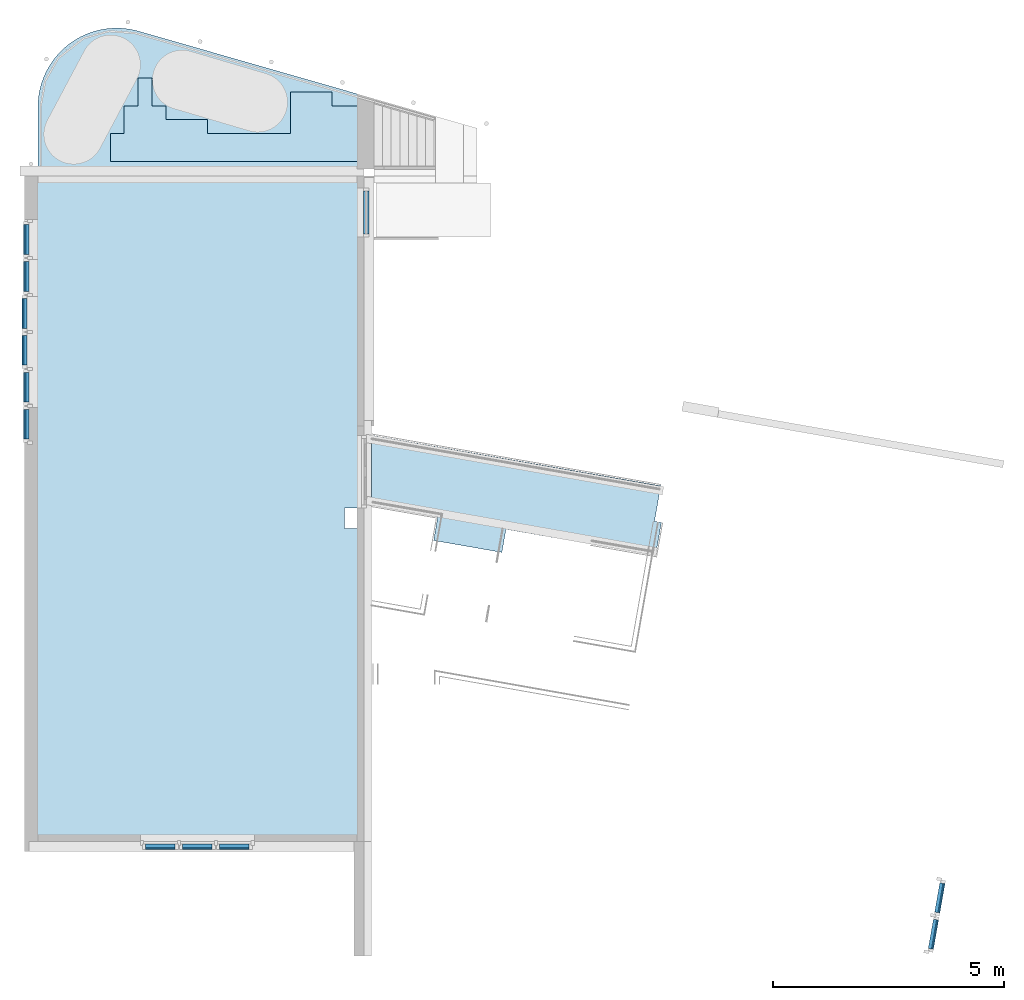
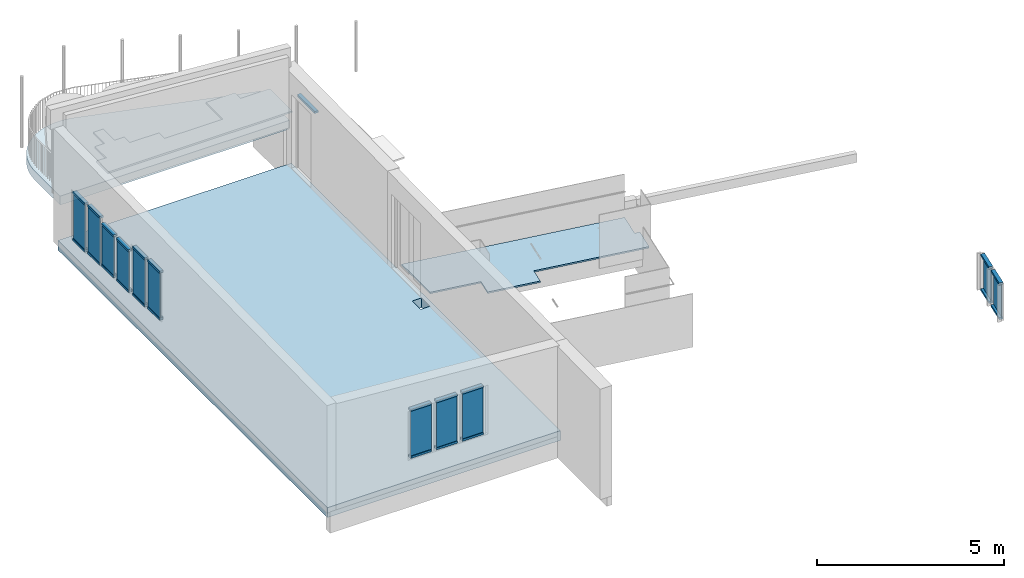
# One storey, part 3 of 9: 23 members, 11 plates, 4 slabs, 1 opening, 12 elements without a shape of their own.
"""IFC2X3 building model written with IfcOpenShell, lengths in millimetres."""

from ifc_helpers import new_model, entity, si_unit, converted_unit, derived_unit, direction, frame, frame_2d, origin, origin_2d_with_axis, place, context, subcontext, project, spatial, polyline, circle_curve, parameter, trimmed, segment, composite_curve, rectangle, outline, extrude, source, transform, mapped, material, layer, layer_set, layer_usage, type_object, type_shapes, element, aggregate, save


model = new_model("IFC2X3")

# Units and contexts
model_context = context("Model", 3, precision=0.01, world=origin(), true_north=direction((6.12303176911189e-17, 1.0)))
body_context = subcontext(model_context, "Body", "Model", "MODEL_VIEW")
ifc_project = project(units=[si_unit("LENGTHUNIT", "METRE", prefix="MILLI"), si_unit("AREAUNIT", "SQUARE_METRE"), si_unit("VOLUMEUNIT", "CUBIC_METRE"), converted_unit("PLANEANGLEUNIT", "DEGREE", entity("IfcRatioMeasure", 0.0174532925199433), si_unit("PLANEANGLEUNIT", "RADIAN"), dimensions=[0, 0, 0, 0, 0, 0, 0]), si_unit("MASSUNIT", "GRAM", prefix="KILO"), derived_unit("MASSDENSITYUNIT", [(si_unit("MASSUNIT", "GRAM", prefix="KILO"), 1), (si_unit("LENGTHUNIT", "METRE"), -3)]), si_unit("TIMEUNIT", "SECOND"), si_unit("FREQUENCYUNIT", "HERTZ"), si_unit("THERMODYNAMICTEMPERATUREUNIT", "DEGREE_CELSIUS"), derived_unit("THERMALTRANSMITTANCEUNIT", [(si_unit("MASSUNIT", "GRAM", prefix="KILO"), 1), (si_unit("THERMODYNAMICTEMPERATUREUNIT", "KELVIN"), -1), (si_unit("TIMEUNIT", "SECOND"), -3)]), derived_unit("VOLUMETRICFLOWRATEUNIT", [(si_unit("LENGTHUNIT", "METRE"), 3), (si_unit("TIMEUNIT", "SECOND"), -1)]), si_unit("ELECTRICCURRENTUNIT", "AMPERE"), si_unit("ELECTRICVOLTAGEUNIT", "VOLT"), si_unit("POWERUNIT", "WATT"), si_unit("FORCEUNIT", "NEWTON", prefix="KILO"), si_unit("ILLUMINANCEUNIT", "LUX"), si_unit("LUMINOUSFLUXUNIT", "LUMEN"), si_unit("LUMINOUSINTENSITYUNIT", "CANDELA"), derived_unit("USERDEFINED", [(si_unit("MASSUNIT", "GRAM", prefix="KILO"), -1), (si_unit("LENGTHUNIT", "METRE"), -2), (si_unit("TIMEUNIT", "SECOND"), 3), (si_unit("LUMINOUSFLUXUNIT", "LUMEN"), 1)]), derived_unit("LINEARVELOCITYUNIT", [(si_unit("LENGTHUNIT", "METRE"), 1), (si_unit("TIMEUNIT", "SECOND"), -1)]), si_unit("PRESSUREUNIT", "PASCAL"), derived_unit("USERDEFINED", [(si_unit("LENGTHUNIT", "METRE"), -2), (si_unit("MASSUNIT", "GRAM", prefix="KILO"), 1), (si_unit("TIMEUNIT", "SECOND"), -2)])], contexts=[model_context])

# Site, building, storey
site_placement = place(None, origin())
site = spatial("IfcSite", under=ifc_project, at=site_placement, Name="<Kadaster Gemeente>;<Kadaster nummer>;<Kadaster sectie>", CompositionType="ELEMENT")
building_placement = place(site_placement, origin())
building = spatial("IfcBuilding", under=site, at=building_placement, Name="JRCZ Middelburg", CompositionType="ELEMENT")
storey_placement = place(building_placement, frame((0.0, 0.0, 3700.0)))
storey = spatial("IfcBuildingStorey", under=building, at=storey_placement, Name="02 tweede verdieping", CompositionType="ELEMENT", Elevation=3700.0)

# Curtain wall, member
curtain_wall_type_1 = type_object("IfcCurtainWallType", Name="Curtain Wall:NLRS_31_CW_Ontwerpkozijn 067x114 2", PredefinedType="NOTDEFINED")
curtain_wall_1_placement = place(storey_placement, frame((0.0, 0.0, -3700.0)))
curtain_wall_1 = element("IfcCurtainWall", 1, at=curtain_wall_1_placement, inside=storey, type_object=curtain_wall_type_1, Name="Curtain Wall:NLRS_31_CW_Ontwerpkozijn 067x114 2", ObjectType="Curtain Wall:NLRS_31_CW_Ontwerpkozijn 067x114 2")
ifc_material_1 = material(Name="RBM_a_kozijn")
member_type_1 = type_object("IfcMemberType", Name="31_CWM_067x114", PredefinedType="MEMBER")
shared_shape_1 = source(origin(), body_context, "Body", "SweptSolid", [
    extrude(rectangle(XDim=113.999999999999, YDim=67.0, at=origin_2d_with_axis()), frame((-33.5, 57.0, -641.0), z_axis=(0.0, 0.0, 1.0), x_axis=(0.0, -1.0, 0.0)), (0.0, 0.0, 1.0), 640.999999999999),
])
type_shapes(member_type_1, [shared_shape_1])
member_1_placement = place(storey_placement, frame((29522.4129943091, 8317.20404928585, 1900.0), z_axis=(0.173648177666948, 0.984807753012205, 0.0), x_axis=(0.0, 0.0, 1.0)))
member_1 = element("IfcMember", 2, at=member_1_placement, type_object=member_type_1, material=ifc_material_1, Name="Rectangular Mullion:31_CWM_067x114", ObjectType="Rectangular Mullion:31_CWM_067x114", context=body_context, shape_type="MappedRepresentation", body=[
    mapped(shared_shape_1, transform((0.0, 0.0, 0.0), scale=1.0)),
])

curtain_wall_2_placement = place(storey_placement, frame((0.0, 0.0, -3700.0)))
curtain_wall_2 = element("IfcCurtainWall", 3, at=curtain_wall_2_placement, inside=storey, type_object=curtain_wall_type_1, Name="Curtain Wall:NLRS_31_CW_Ontwerpkozijn 067x114 2", ObjectType="Curtain Wall:NLRS_31_CW_Ontwerpkozijn 067x114 2")
member_2_placement = place(storey_placement, frame((29661.3315364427, 9105.05025169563, 1900.0), z_axis=(0.173648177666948, 0.984807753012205, 0.0), x_axis=(0.0, 0.0, 1.0)))
member_2 = element("IfcMember", 4, at=member_2_placement, type_object=member_type_1, material=ifc_material_1, Name="Rectangular Mullion:31_CWM_067x114", ObjectType="Rectangular Mullion:31_CWM_067x114", context=body_context, shape_type="MappedRepresentation", body=[
    mapped(shared_shape_1, transform((0.0, 0.0, 0.0), scale=1.0)),
])

curtain_wall_3_placement = place(storey_placement, frame((0.0, 0.0, -3700.0)))
curtain_wall_3 = element("IfcCurtainWall", 5, at=curtain_wall_3_placement, inside=storey, type_object=curtain_wall_type_1, Name="Curtain Wall:NLRS_31_CW_Ontwerpkozijn 067x114 2", ObjectType="Curtain Wall:NLRS_31_CW_Ontwerpkozijn 067x114 2")
member_3_placement = place(storey_placement, frame((9955.0, 21902.3639489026, 2300.0), z_axis=(0.0, -1.0, 0.0), x_axis=(0.0, 0.0, 1.0)))
member_3 = element("IfcMember", 6, at=member_3_placement, type_object=member_type_1, material=ifc_material_1, Name="Rectangular Mullion:31_CWM_067x114", ObjectType="Rectangular Mullion:31_CWM_067x114", context=body_context, shape_type="MappedRepresentation", body=[
    mapped(shared_shape_1, transform((0.0, 0.0, 0.0), scale=1.0)),
])

curtain_wall_4_placement = place(storey_placement, frame((0.0, 0.0, -3700.0)))
curtain_wall_4 = element("IfcCurtainWall", 7, at=curtain_wall_4_placement, inside=storey, type_object=curtain_wall_type_1, Name="Curtain Wall:NLRS_31_CW_Ontwerpkozijn 067x114 2", ObjectType="Curtain Wall:NLRS_31_CW_Ontwerpkozijn 067x114 2")
member_4_placement = place(storey_placement, frame((9915.0, 21102.3639489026, 2200.0), z_axis=(0.0, -1.0, 0.0), x_axis=(0.0, 0.0, 1.0)))
member_4 = element("IfcMember", 8, at=member_4_placement, type_object=member_type_1, material=ifc_material_1, Name="Rectangular Mullion:31_CWM_067x114", ObjectType="Rectangular Mullion:31_CWM_067x114", context=body_context, shape_type="MappedRepresentation", body=[
    mapped(shared_shape_1, transform((0.0, 0.0, 0.0), scale=1.0)),
])

curtain_wall_5_placement = place(storey_placement, frame((0.0, 0.0, -3700.0)))
curtain_wall_5 = element("IfcCurtainWall", 9, at=curtain_wall_5_placement, inside=storey, type_object=curtain_wall_type_1, Name="Curtain Wall:NLRS_31_CW_Ontwerpkozijn 067x114 2", ObjectType="Curtain Wall:NLRS_31_CW_Ontwerpkozijn 067x114 2")
member_5_placement = place(storey_placement, frame((9915.0, 20302.3639489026, 2200.0), z_axis=(0.0, -1.0, 0.0), x_axis=(0.0, 0.0, 1.0)))
member_5 = element("IfcMember", 10, at=member_5_placement, type_object=member_type_1, material=ifc_material_1, Name="Rectangular Mullion:31_CWM_067x114", ObjectType="Rectangular Mullion:31_CWM_067x114", context=body_context, shape_type="MappedRepresentation", body=[
    mapped(shared_shape_1, transform((0.0, 0.0, 0.0), scale=1.0)),
])

curtain_wall_6_placement = place(storey_placement, frame((0.0, 0.0, -3700.0)))
curtain_wall_6 = element("IfcCurtainWall", 11, at=curtain_wall_6_placement, inside=storey, type_object=curtain_wall_type_1, Name="Curtain Wall:NLRS_31_CW_Ontwerpkozijn 067x114 2", ObjectType="Curtain Wall:NLRS_31_CW_Ontwerpkozijn 067x114 2")
member_6_placement = place(storey_placement, frame((9955.0, 19502.3639489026, 2400.0), z_axis=(0.0, -1.0, 0.0), x_axis=(0.0, 0.0, 1.0)))
member_6 = element("IfcMember", 12, at=member_6_placement, type_object=member_type_1, material=ifc_material_1, Name="Rectangular Mullion:31_CWM_067x114", ObjectType="Rectangular Mullion:31_CWM_067x114", context=body_context, shape_type="MappedRepresentation", body=[
    mapped(shared_shape_1, transform((0.0, 0.0, 0.0), scale=1.0)),
])

curtain_wall_7_placement = place(storey_placement, frame((0.0, 0.0, -3700.0)))
curtain_wall_7 = element("IfcCurtainWall", 13, at=curtain_wall_7_placement, inside=storey, type_object=curtain_wall_type_1, Name="Curtain Wall:NLRS_31_CW_Ontwerpkozijn 067x114 2", ObjectType="Curtain Wall:NLRS_31_CW_Ontwerpkozijn 067x114 2")
member_7_placement = place(storey_placement, frame((9955.0, 18702.3639489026, 2450.0), z_axis=(0.0, -1.0, 0.0), x_axis=(0.0, 0.0, 1.0)))
member_7 = element("IfcMember", 14, at=member_7_placement, type_object=member_type_1, material=ifc_material_1, Name="Rectangular Mullion:31_CWM_067x114", ObjectType="Rectangular Mullion:31_CWM_067x114", context=body_context, shape_type="MappedRepresentation", body=[
    mapped(shared_shape_1, transform((0.0, 0.0, 0.0), scale=1.0)),
])

curtain_wall_8_placement = place(storey_placement, frame((0.0, 0.0, -3700.0)))
curtain_wall_8 = element("IfcCurtainWall", 15, at=curtain_wall_8_placement, inside=storey, type_object=curtain_wall_type_1, Name="Curtain Wall:NLRS_31_CW_Ontwerpkozijn 067x114 2", ObjectType="Curtain Wall:NLRS_31_CW_Ontwerpkozijn 067x114 2")
member_8_placement = place(storey_placement, frame((9955.0, 22702.3639489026, 2250.0), z_axis=(0.0, -1.0, 0.0), x_axis=(0.0, 0.0, 1.0)))
member_8 = element("IfcMember", 16, at=member_8_placement, type_object=member_type_1, material=ifc_material_1, Name="Rectangular Mullion:31_CWM_067x114", ObjectType="Rectangular Mullion:31_CWM_067x114", context=body_context, shape_type="MappedRepresentation", body=[
    mapped(shared_shape_1, transform((0.0, 0.0, 0.0), scale=1.0)),
])

curtain_wall_9_placement = place(storey_placement, frame((0.0, 0.0, -3700.0)))
curtain_wall_9 = element("IfcCurtainWall", 17, at=curtain_wall_9_placement, inside=storey, type_object=curtain_wall_type_1, Name="Curtain Wall:NLRS_31_CW_Ontwerpkozijn 067x114 2", ObjectType="Curtain Wall:NLRS_31_CW_Ontwerpkozijn 067x114 2")
member_9_placement = place(storey_placement, frame((14720.5000000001, 9942.0, 2400.0), z_axis=(1.0, 0.0, 0.0), x_axis=(0.0, 0.0, 1.0)))
member_9 = element("IfcMember", 18, at=member_9_placement, type_object=member_type_1, material=ifc_material_1, Name="Rectangular Mullion:31_CWM_067x114", ObjectType="Rectangular Mullion:31_CWM_067x114", context=body_context, shape_type="MappedRepresentation", body=[
    mapped(shared_shape_1, transform((0.0, 0.0, 0.0), scale=1.0)),
])

curtain_wall_10_placement = place(storey_placement, frame((0.0, 0.0, -3700.0)))
curtain_wall_10 = element("IfcCurtainWall", 19, at=curtain_wall_10_placement, inside=storey, type_object=curtain_wall_type_1, Name="Curtain Wall:NLRS_31_CW_Ontwerpkozijn 067x114 2", ObjectType="Curtain Wall:NLRS_31_CW_Ontwerpkozijn 067x114 2")
member_10_placement = place(storey_placement, frame((13920.5000000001, 9942.0, 2400.0), z_axis=(1.0, 0.0, 0.0), x_axis=(0.0, 0.0, 1.0)))
member_10 = element("IfcMember", 20, at=member_10_placement, type_object=member_type_1, material=ifc_material_1, Name="Rectangular Mullion:31_CWM_067x114", ObjectType="Rectangular Mullion:31_CWM_067x114", context=body_context, shape_type="MappedRepresentation", body=[
    mapped(shared_shape_1, transform((0.0, 0.0, 0.0), scale=1.0)),
])

curtain_wall_11_placement = place(storey_placement, frame((0.0, 0.0, -3700.0)))
curtain_wall_11 = element("IfcCurtainWall", 21, at=curtain_wall_11_placement, inside=storey, type_object=curtain_wall_type_1, Name="Curtain Wall:NLRS_31_CW_Ontwerpkozijn 067x114 2", ObjectType="Curtain Wall:NLRS_31_CW_Ontwerpkozijn 067x114 2")
member_11_placement = place(storey_placement, frame((13120.5000000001, 9942.0, 2400.0), z_axis=(1.0, 0.0, 0.0), x_axis=(0.0, 0.0, 1.0)))
member_11 = element("IfcMember", 22, at=member_11_placement, type_object=member_type_1, material=ifc_material_1, Name="Rectangular Mullion:31_CWM_067x114", ObjectType="Rectangular Mullion:31_CWM_067x114", context=body_context, shape_type="MappedRepresentation", body=[
    mapped(shared_shape_1, transform((0.0, 0.0, 0.0), scale=1.0)),
])

# Member
member_type_2 = type_object("IfcMemberType", Name="31_CWM_067x114", PredefinedType="MEMBER")
shared_shape_2 = source(origin(), body_context, "Body", "SweptSolid", [
    extrude(rectangle(XDim=113.999999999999, YDim=67.0, at=origin_2d_with_axis()), frame((-33.5, 57.0, -641.0), z_axis=(0.0, 0.0, 1.0), x_axis=(0.0, -1.0, 0.0)), (0.0, 0.0, 1.0), 640.999999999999),
])
type_shapes(member_type_2, [shared_shape_2])
member_12_placement = place(storey_placement, frame((29411.1045124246, 7685.94227960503, 700.0), z_axis=(-0.173648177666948, -0.984807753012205, 0.0), x_axis=(0.0, 0.0, -1.0)))
member_12 = element("IfcMember", 23, at=member_12_placement, type_object=member_type_2, material=ifc_material_1, Name="Rectangular Mullion:31_CWM_067x114", ObjectType="Rectangular Mullion:31_CWM_067x114", context=body_context, shape_type="MappedRepresentation", body=[
    mapped(shared_shape_2, transform((0.0, 0.0, 0.0), scale=1.0)),
])

member_13_placement = place(storey_placement, frame((29550.0230545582, 8473.78848201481, 700.0), z_axis=(-0.173648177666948, -0.984807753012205, 0.0), x_axis=(0.0, 0.0, -1.0)))
member_13 = element("IfcMember", 24, at=member_13_placement, type_object=member_type_2, material=ifc_material_1, Name="Rectangular Mullion:31_CWM_067x114", ObjectType="Rectangular Mullion:31_CWM_067x114", context=body_context, shape_type="MappedRepresentation", body=[
    mapped(shared_shape_2, transform((0.0, 0.0, 0.0), scale=1.0)),
])

member_14_placement = place(storey_placement, frame((9955.0, 22543.3639489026, 700.0), z_axis=(0.0, 1.0, 0.0), x_axis=(0.0, 0.0, -1.0)))
member_14 = element("IfcMember", 25, at=member_14_placement, type_object=member_type_2, material=ifc_material_1, Name="Rectangular Mullion:31_CWM_067x114", ObjectType="Rectangular Mullion:31_CWM_067x114", context=body_context, shape_type="MappedRepresentation", body=[
    mapped(shared_shape_2, transform((0.0, 0.0, 0.0), scale=1.0)),
])

member_15_placement = place(storey_placement, frame((9915.0, 21743.3639489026, 800.0), z_axis=(0.0, 1.0, 0.0), x_axis=(0.0, 0.0, -1.0)))
member_15 = element("IfcMember", 26, at=member_15_placement, type_object=member_type_2, material=ifc_material_1, Name="Rectangular Mullion:31_CWM_067x114", ObjectType="Rectangular Mullion:31_CWM_067x114", context=body_context, shape_type="MappedRepresentation", body=[
    mapped(shared_shape_2, transform((0.0, 0.0, 0.0), scale=1.0)),
])

member_16_placement = place(storey_placement, frame((9915.0, 20943.3639489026, 800.0), z_axis=(0.0, 1.0, 0.0), x_axis=(0.0, 0.0, -1.0)))
member_16 = element("IfcMember", 27, at=member_16_placement, type_object=member_type_2, material=ifc_material_1, Name="Rectangular Mullion:31_CWM_067x114", ObjectType="Rectangular Mullion:31_CWM_067x114", context=body_context, shape_type="MappedRepresentation", body=[
    mapped(shared_shape_2, transform((0.0, 0.0, 0.0), scale=1.0)),
])

member_17_placement = place(storey_placement, frame((9955.0, 20143.3639489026, 800.0), z_axis=(0.0, 1.0, 0.0), x_axis=(0.0, 0.0, -1.0)))
member_17 = element("IfcMember", 28, at=member_17_placement, type_object=member_type_2, material=ifc_material_1, Name="Rectangular Mullion:31_CWM_067x114", ObjectType="Rectangular Mullion:31_CWM_067x114", context=body_context, shape_type="MappedRepresentation", body=[
    mapped(shared_shape_2, transform((0.0, 0.0, 0.0), scale=1.0)),
])

member_18_placement = place(storey_placement, frame((9955.0, 19343.3639489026, 850.0), z_axis=(0.0, 1.0, 0.0), x_axis=(0.0, 0.0, -1.0)))
member_18 = element("IfcMember", 29, at=member_18_placement, type_object=member_type_2, material=ifc_material_1, Name="Rectangular Mullion:31_CWM_067x114", ObjectType="Rectangular Mullion:31_CWM_067x114", context=body_context, shape_type="MappedRepresentation", body=[
    mapped(shared_shape_2, transform((0.0, 0.0, 0.0), scale=1.0)),
])

member_19_placement = place(storey_placement, frame((9955.0, 23343.3639489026, 650.0), z_axis=(0.0, 1.0, 0.0), x_axis=(0.0, 0.0, -1.0)))
member_19 = element("IfcMember", 30, at=member_19_placement, type_object=member_type_2, material=ifc_material_1, Name="Rectangular Mullion:31_CWM_067x114", ObjectType="Rectangular Mullion:31_CWM_067x114", context=body_context, shape_type="MappedRepresentation", body=[
    mapped(shared_shape_2, transform((0.0, 0.0, 0.0), scale=1.0)),
])

member_20_placement = place(storey_placement, frame((14079.5000000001, 9942.0, 800.0), z_axis=(-1.0, 0.0, 0.0), x_axis=(0.0, 0.0, -1.0)))
member_20 = element("IfcMember", 31, at=member_20_placement, type_object=member_type_2, material=ifc_material_1, Name="Rectangular Mullion:31_CWM_067x114", ObjectType="Rectangular Mullion:31_CWM_067x114", context=body_context, shape_type="MappedRepresentation", body=[
    mapped(shared_shape_2, transform((0.0, 0.0, 0.0), scale=1.0)),
])

member_21_placement = place(storey_placement, frame((13279.5000000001, 9942.0, 800.0), z_axis=(-1.0, 0.0, 0.0), x_axis=(0.0, 0.0, -1.0)))
member_21 = element("IfcMember", 32, at=member_21_placement, type_object=member_type_2, material=ifc_material_1, Name="Rectangular Mullion:31_CWM_067x114", ObjectType="Rectangular Mullion:31_CWM_067x114", context=body_context, shape_type="MappedRepresentation", body=[
    mapped(shared_shape_2, transform((0.0, 0.0, 0.0), scale=1.0)),
])

member_22_placement = place(storey_placement, frame((12479.5000000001, 9942.0, 800.0), z_axis=(-1.0, 0.0, 0.0), x_axis=(0.0, 0.0, -1.0)))
member_22 = element("IfcMember", 33, at=member_22_placement, type_object=member_type_2, material=ifc_material_1, Name="Rectangular Mullion:31_CWM_067x114", ObjectType="Rectangular Mullion:31_CWM_067x114", context=body_context, shape_type="MappedRepresentation", body=[
    mapped(shared_shape_2, transform((0.0, 0.0, 0.0), scale=1.0)),
])

# Curtain wall, member
curtain_wall_type_2 = type_object("IfcCurtainWallType", Name="Curtain Wall:NLRS_31_CW_Ontwerpkozijn 067x114", PredefinedType="NOTDEFINED")
curtain_wall_12_placement = place(storey_placement, frame((0.0, 0.0, -3700.0)))
curtain_wall_12 = element("IfcCurtainWall", 34, at=curtain_wall_12_placement, inside=storey, type_object=curtain_wall_type_2, Name="Curtain Wall:NLRS_31_CW_Ontwerpkozijn 067x114", ObjectType="Curtain Wall:NLRS_31_CW_Ontwerpkozijn 067x114")
member_type_3 = type_object("IfcMemberType", Name="31_CWM_067x114", PredefinedType="MEMBER")
shared_shape_3 = source(origin(), body_context, "Body", "SweptSolid", [
    extrude(rectangle(XDim=113.999999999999, YDim=67.0, at=origin_2d_with_axis()), frame((-33.5, -57.0, -930.0), z_axis=(0.0, 0.0, 1.0), x_axis=(0.0, -1.0, 0.0)), (0.0, 0.0, 1.0), 930.000000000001),
])
type_shapes(member_type_3, [shared_shape_3])
member_23_placement = place(storey_placement, frame((17197.0, 23141.0, 2400.0), z_axis=(0.0, -1.0, 0.0), x_axis=(0.0, 0.0, 1.0)))
member_23 = element("IfcMember", 35, at=member_23_placement, type_object=member_type_3, material=ifc_material_1, Name="Rectangular Mullion:31_CWM_067x114", ObjectType="Rectangular Mullion:31_CWM_067x114", context=body_context, shape_type="MappedRepresentation", body=[
    mapped(shared_shape_3, transform((0.0, 0.0, 0.0), scale=1.0)),
])
aggregate(curtain_wall_12, [member_23])

# Slab, opening
ifc_material_2 = material(Name="RBM_i4_multiplex_beplating")
ifc_layer_1 = layer(ifc_material_2, 320.0)
ifc_layer_set_1 = layer_set([ifc_layer_1], Name="Floor:RBM_23_FL_houten kanaalplaat-320mm")
ifc_layer_usage_1 = layer_usage(ifc_layer_set_1, "AXIS3", "POSITIVE", 0.0)
slab_type_1 = type_object("IfcSlabType", Name="Floor:RBM_23_FL_houten kanaalplaat-320mm", PredefinedType="FLOOR", material=ifc_layer_set_1)
slab_1_placement = place(storey_placement, frame((10000.0, 10000.0, -365.0)))
slab_1 = element("IfcSlab", 36, at=slab_1_placement, inside=storey, type_object=slab_type_1, material=ifc_layer_usage_1, Name="Floor:RBM_23_FL_houten kanaalplaat-320mm", ObjectType="Floor:RBM_23_FL_houten kanaalplaat-320mm", PredefinedType="FLOOR", context=body_context, shape_type="SweptSolid", body=[
    extrude(rectangle(XDim=14400.0, YDim=7200.0, at=frame_2d((0.0, 0.0), x_axis=(0.0, 1.0))), frame((3600.0, 7200.0, 320.0), z_axis=(0.0, 0.0, -1.0), x_axis=(-1.0, 0.0, 0.0)), (0.0, 0.0, 1.0), 320.0),
])
opening_placement = place(storey_placement, frame((10000.0, 10000.0, -365.0)))
element("IfcOpeningElement", 37, at=opening_placement, cuts=slab_1, ObjectType="Opening", context=body_context, shape_type="SweptSolid", body=[
    extrude(rectangle(XDim=449.999999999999, YDim=300.000000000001, at=frame_2d((-3332.0, -209.910615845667), x_axis=(0.0, -1.0))), frame((3600.0, 7200.0, 320.0), z_axis=(0.0, 0.0, -1.0), x_axis=(-1.0, 0.0, 0.0)), (0.0, 0.0, 1.0), 320.0),
])

# Slabs
ifc_material_3 = material(Name="traphout")
ifc_layer_2 = layer(ifc_material_3, 50.0)
ifc_layer_set_2 = layer_set([ifc_layer_2], Name="Floor:RBM_23_FL_houten vloer-brug")
ifc_layer_usage_2 = layer_usage(ifc_layer_set_2, "AXIS3", "POSITIVE", 0.0)
slab_type_2 = type_object("IfcSlabType", Name="Floor:RBM_23_FL_houten vloer-brug", PredefinedType="FLOOR", material=ifc_layer_set_2)
slab_2_placement = place(storey_placement, origin())
element("IfcSlab", 38, at=slab_2_placement, inside=storey, type_object=slab_type_2, material=ifc_layer_usage_2, Name="Floor:RBM_23_FL_houten vloer-brug", ObjectType="Floor:RBM_23_FL_houten vloer-brug", PredefinedType="FLOOR", context=body_context, shape_type="SweptSolid", body=[
    extrude(outline(polyline([(239.600856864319, -3328.730916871), (1759.40523363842, -3328.730916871), (665.927151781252, 2926.67564340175), (-104.899081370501, 2791.93114953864), (-131.141619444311, 2940.75997861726), (-843.82883170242, 2815.09399429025), (-277.933241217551, -422.19722158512), (-777.476281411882, -509.519981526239), (-519.186748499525, -1987.10427465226), (-10.4674386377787, -1898.17745434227), (239.600856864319, -3328.730916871)])), frame((20697.2309168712, 17030.0400636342, 0.0), z_axis=(0.0, 0.0, -1.0), x_axis=(0.0, 1.0, 0.0)), (0.0, 0.0, 1.0), 50.0),
])
ifc_material_4 = material(Name="ISR_Multiplex")
ifc_layer_3 = layer(ifc_material_4, 18.0)
ifc_material_5 = material(Name="RBM_i2_hout_vuren_gen")
ifc_layer_4 = layer(ifc_material_5, 271.0)
ifc_layer_set_3 = layer_set([ifc_layer_3, ifc_layer_4], Name="Floor:RBM_23_FL_balklaag dak_71x271, h.o.h. 400")
ifc_layer_usage_3 = layer_usage(ifc_layer_set_3, "AXIS3", "POSITIVE", 0.0)
slab_type_3 = type_object("IfcSlabType", Name="Floor:RBM_23_FL_balklaag dak_71x271, h.o.h. 400", PredefinedType="FLOOR", material=ifc_layer_set_3)
slab_3_placement = place(storey_placement, origin())
element("IfcSlab", 39, at=slab_3_placement, inside=storey, type_object=slab_type_3, material=ifc_layer_usage_3, Name="Floor:RBM_23_FL_balklaag dak_71x271, h.o.h. 400", ObjectType="Floor:RBM_23_FL_balklaag dak_71x271, h.o.h. 400", PredefinedType="FLOOR", context=body_context, shape_type="SweptSolid", body=[
    extrude(outline(composite_curve([segment(polyline([(-1178.00466543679, -3271.43378327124), (165.145638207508, -3271.43378327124)]), True, "CONTINUOUS"), segment(trimmed(circle_curve(frame_2d((165.145638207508, -1568.35104218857), x_axis=(0.0, -1.0)), 1703.08274108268), [parameter(0.0)], [parameter(106.653579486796)], True, "PARAMETER"), True, "CONTINUOUS"), segment(polyline([(1796.7925691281, -1080.27408535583), (394.071123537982, 3811.57082594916)]), True, "CONTINUOUS"), segment(polyline([(394.071123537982, 3811.57082594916), (-1178.00466543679, 3811.57082594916)]), True, "CONTINUOUS"), segment(polyline([(-1178.00466543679, 3811.57082594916), (-1178.00466543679, -3271.43378327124)]), True, "CONTINUOUS")], self_intersect=False)), frame((13421.429174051, 25728.0046654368, 1250.0), z_axis=(0.0, 0.0, -1.0), x_axis=(0.0, 1.0, 0.0)), (0.0, 0.0, 1.0), 289.0),
])

# Plate
ifc_material_6 = material(Name="<Unnamed>")
ifc_layer_5 = layer(ifc_material_6, 24.0)
ifc_layer_set_4 = layer_set([ifc_layer_5], Name="System Panel:31_CWP_glas_2")
ifc_layer_usage_4 = layer_usage(ifc_layer_set_4, "AXIS3", "POSITIVE", 0.278871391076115)
plate_type_1 = type_object("IfcPlateType", Name="31_CWP_glas_2", PredefinedType="CURTAIN_PANEL", material=ifc_layer_set_4)
shared_shape_4 = source(origin(), body_context, "Body", "SweptSolid", [
    extrude(rectangle(XDim=24.0, YDim=640.999999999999, at=frame_2d((-7.99360577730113e-15, 0.0), x_axis=(1.0, 0.0))), frame((0.0, -85.0, 0.0), z_axis=(0.0, 0.0, 1.0), x_axis=(0.0, 1.0, 0.0)), (0.0, 0.0, 1.0), 1266.0),
])
type_shapes(plate_type_1, [shared_shape_4])
plate_1_placement = place(curtain_wall_4_placement, frame((9915.0, 21422.8639489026, 4567.0), z_axis=(0.0, 0.0, 1.0), x_axis=(0.0, -1.0, 0.0)))
plate_1 = element("IfcPlate", 40, at=plate_1_placement, type_object=plate_type_1, material=ifc_layer_usage_4, Name="System Panel:31_CWP_glas_2", ObjectType="System Panel:31_CWP_glas_2", context=body_context, shape_type="MappedRepresentation", body=[
    mapped(shared_shape_4, transform((0.0, 0.0, 0.0), scale=1.0)),
])

aggregate(curtain_wall_4, [plate_1, member_4, member_15])

ifc_layer_usage_5 = layer_usage(ifc_layer_set_4, "AXIS3", "POSITIVE", 0.278871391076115)
plate_2_placement = place(curtain_wall_5_placement, frame((9915.0, 20622.8639489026, 4567.0), z_axis=(0.0, 0.0, 1.0), x_axis=(0.0, -1.0, 0.0)))
plate_2 = element("IfcPlate", 41, at=plate_2_placement, type_object=plate_type_1, material=ifc_layer_usage_5, Name="System Panel:31_CWP_glas_2", ObjectType="System Panel:31_CWP_glas_2", context=body_context, shape_type="MappedRepresentation", body=[
    mapped(shared_shape_4, transform((0.0, 0.0, 0.0), scale=1.0)),
])

aggregate(curtain_wall_5, [plate_2, member_5, member_16])

ifc_layer_usage_6 = layer_usage(ifc_layer_set_4, "AXIS3", "POSITIVE", 0.278871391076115)
plate_type_2 = type_object("IfcPlateType", Name="31_CWP_glas_2", PredefinedType="CURTAIN_PANEL", material=ifc_layer_set_4)
shared_shape_5 = source(origin(), body_context, "Body", "SweptSolid", [
    extrude(rectangle(XDim=24.0, YDim=640.999999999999, at=frame_2d((-7.99360577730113e-15, 0.0), x_axis=(1.0, 0.0))), frame((0.0, -85.0, 0.0), z_axis=(0.0, 0.0, 1.0), x_axis=(0.0, 1.0, 0.0)), (0.0, 0.0, 1.0), 1066.0),
])
type_shapes(plate_type_2, [shared_shape_5])
plate_3_placement = place(curtain_wall_1_placement, frame((29466.7587533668, 8001.57316444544, 4467.0), z_axis=(0.0, 0.0, 1.0), x_axis=(0.17364817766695, 0.984807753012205, 0.0)))
plate_3 = element("IfcPlate", 42, at=plate_3_placement, type_object=plate_type_2, material=ifc_layer_usage_6, Name="System Panel:31_CWP_glas_2", ObjectType="System Panel:31_CWP_glas_2", context=body_context, shape_type="MappedRepresentation", body=[
    mapped(shared_shape_5, transform((0.0, 0.0, 0.0), scale=1.0)),
])

aggregate(curtain_wall_1, [plate_3, member_1, member_12])

ifc_layer_usage_7 = layer_usage(ifc_layer_set_4, "AXIS3", "POSITIVE", 0.278871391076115)
plate_4_placement = place(curtain_wall_2_placement, frame((29605.6772955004, 8789.41936685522, 4467.0), z_axis=(0.0, 0.0, 1.0), x_axis=(0.17364817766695, 0.984807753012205, 0.0)))
plate_4 = element("IfcPlate", 43, at=plate_4_placement, type_object=plate_type_2, material=ifc_layer_usage_7, Name="System Panel:31_CWP_glas_2", ObjectType="System Panel:31_CWP_glas_2", context=body_context, shape_type="MappedRepresentation", body=[
    mapped(shared_shape_5, transform((0.0, 0.0, 0.0), scale=1.0)),
])

aggregate(curtain_wall_2, [plate_4, member_2, member_13])

ifc_layer_usage_8 = layer_usage(ifc_layer_set_4, "AXIS3", "POSITIVE", 0.278871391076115)
plate_type_3 = type_object("IfcPlateType", Name="31_CWP_glas_2", PredefinedType="CURTAIN_PANEL", material=ifc_layer_set_4)
shared_shape_6 = source(origin(), body_context, "Body", "SweptSolid", [
    extrude(rectangle(XDim=24.0, YDim=640.999999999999, at=frame_2d((-7.99360577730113e-15, 0.0), x_axis=(1.0, 0.0))), frame((0.0, -85.0, 0.0), z_axis=(0.0, 0.0, 1.0), x_axis=(0.0, 1.0, 0.0)), (0.0, 0.0, 1.0), 1466.0),
])
type_shapes(plate_type_3, [shared_shape_6])
plate_5_placement = place(curtain_wall_3_placement, frame((9955.0, 22222.8639489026, 4467.0), z_axis=(0.0, 0.0, 1.0), x_axis=(0.0, -1.0, 0.0)))
plate_5 = element("IfcPlate", 44, at=plate_5_placement, type_object=plate_type_3, material=ifc_layer_usage_8, Name="System Panel:31_CWP_glas_2", ObjectType="System Panel:31_CWP_glas_2", context=body_context, shape_type="MappedRepresentation", body=[
    mapped(shared_shape_6, transform((0.0, 0.0, 0.0), scale=1.0)),
])

aggregate(curtain_wall_3, [plate_5, member_3, member_14])

ifc_layer_usage_9 = layer_usage(ifc_layer_set_4, "AXIS3", "POSITIVE", 0.278871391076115)
plate_6_placement = place(curtain_wall_6_placement, frame((9955.0, 19822.8639489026, 4567.0), z_axis=(0.0, 0.0, 1.0), x_axis=(0.0, -1.0, 0.0)))
plate_6 = element("IfcPlate", 45, at=plate_6_placement, type_object=plate_type_3, material=ifc_layer_usage_9, Name="System Panel:31_CWP_glas_2", ObjectType="System Panel:31_CWP_glas_2", context=body_context, shape_type="MappedRepresentation", body=[
    mapped(shared_shape_6, transform((0.0, 0.0, 0.0), scale=1.0)),
])

aggregate(curtain_wall_6, [plate_6, member_6, member_17])

ifc_layer_usage_10 = layer_usage(ifc_layer_set_4, "AXIS3", "POSITIVE", 0.278871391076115)
plate_7_placement = place(curtain_wall_7_placement, frame((9955.0, 19022.8639489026, 4617.0), z_axis=(0.0, 0.0, 1.0), x_axis=(0.0, -1.0, 0.0)))
plate_7 = element("IfcPlate", 46, at=plate_7_placement, type_object=plate_type_3, material=ifc_layer_usage_10, Name="System Panel:31_CWP_glas_2", ObjectType="System Panel:31_CWP_glas_2", context=body_context, shape_type="MappedRepresentation", body=[
    mapped(shared_shape_6, transform((0.0, 0.0, 0.0), scale=1.0)),
])

aggregate(curtain_wall_7, [plate_7, member_7, member_18])

ifc_layer_usage_11 = layer_usage(ifc_layer_set_4, "AXIS3", "POSITIVE", 0.278871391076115)
plate_8_placement = place(curtain_wall_8_placement, frame((9955.0, 23022.8639489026, 4417.0), z_axis=(0.0, 0.0, 1.0), x_axis=(0.0, -1.0, 0.0)))
plate_8 = element("IfcPlate", 47, at=plate_8_placement, type_object=plate_type_3, material=ifc_layer_usage_11, Name="System Panel:31_CWP_glas_2", ObjectType="System Panel:31_CWP_glas_2", context=body_context, shape_type="MappedRepresentation", body=[
    mapped(shared_shape_6, transform((0.0, 0.0, 0.0), scale=1.0)),
])

aggregate(curtain_wall_8, [plate_8, member_8, member_19])

ifc_layer_usage_12 = layer_usage(ifc_layer_set_4, "AXIS3", "POSITIVE", 0.278871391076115)
plate_9_placement = place(curtain_wall_9_placement, frame((14400.0, 9942.0, 4567.0)))
plate_9 = element("IfcPlate", 48, at=plate_9_placement, type_object=plate_type_3, material=ifc_layer_usage_12, Name="System Panel:31_CWP_glas_2", ObjectType="System Panel:31_CWP_glas_2", context=body_context, shape_type="MappedRepresentation", body=[
    mapped(shared_shape_6, transform((0.0, 0.0, 0.0), scale=1.0)),
])

aggregate(curtain_wall_9, [plate_9, member_9, member_20])

ifc_layer_usage_13 = layer_usage(ifc_layer_set_4, "AXIS3", "POSITIVE", 0.278871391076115)
plate_10_placement = place(curtain_wall_10_placement, frame((13600.0, 9942.0, 4567.0)))
plate_10 = element("IfcPlate", 49, at=plate_10_placement, type_object=plate_type_3, material=ifc_layer_usage_13, Name="System Panel:31_CWP_glas_2", ObjectType="System Panel:31_CWP_glas_2", context=body_context, shape_type="MappedRepresentation", body=[
    mapped(shared_shape_6, transform((0.0, 0.0, 0.0), scale=1.0)),
])

aggregate(curtain_wall_10, [plate_10, member_10, member_21])

ifc_layer_usage_14 = layer_usage(ifc_layer_set_4, "AXIS3", "POSITIVE", 0.278871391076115)
plate_11_placement = place(curtain_wall_11_placement, frame((12800.0, 9942.0, 4567.0)))
plate_11 = element("IfcPlate", 50, at=plate_11_placement, type_object=plate_type_3, material=ifc_layer_usage_14, Name="System Panel:31_CWP_glas_2", ObjectType="System Panel:31_CWP_glas_2", context=body_context, shape_type="MappedRepresentation", body=[
    mapped(shared_shape_6, transform((0.0, 0.0, 0.0), scale=1.0)),
])

aggregate(curtain_wall_11, [plate_11, member_11, member_22])

# Slab
ifc_material_7 = material(Name="RBM_f2_betontegels")
ifc_layer_6 = layer(ifc_material_7, 30.0)
ifc_material_8 = material(Name="RBM_n7_isolatie_zwevende dekvloer")
ifc_layer_7 = layer(ifc_material_8, 20.0)
ifc_layer_set_5 = layer_set([ifc_layer_6, ifc_layer_7], Name="Floor:RBM_43_FL_betontegels op dragers")
ifc_layer_usage_15 = layer_usage(ifc_layer_set_5, "AXIS3", "POSITIVE", 0.0)
slab_type_4 = type_object("IfcSlabType", Name="Floor:RBM_43_FL_betontegels op dragers", PredefinedType="FLOOR", material=ifc_layer_set_5)
slab_4_placement = place(storey_placement, origin())
element("IfcSlab", 51, at=slab_4_placement, inside=storey, type_object=slab_type_4, material=ifc_layer_usage_15, Name="Floor:RBM_43_FL_betontegels op dragers", ObjectType="Floor:RBM_43_FL_betontegels op dragers", PredefinedType="FLOOR", context=body_context, shape_type="SweptSolid", body=[
    extrude(outline(polyline([(-999.839410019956, -2166.66666666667), (-400.020073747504, -2166.66666666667), (-400.020073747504, -1866.66666666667), (199.799262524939, -1866.66666666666), (199.799262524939, -1566.66666666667), (799.979926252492, -1566.66666666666), (799.979926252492, -1266.66666666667), (199.799262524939, -1266.66666666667), (199.799262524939, -966.666666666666), (-100.020073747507, -966.666666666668), (-100.020073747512, -66.6666666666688), (-399.839410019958, -66.6666666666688), (-399.839410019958, 1733.33333333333), (499.97992625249, 1733.33333333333), (499.97992625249, 2633.33333333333), (200.16058998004, 2633.33333333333), (200.16058998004, 3533.33333333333), (-999.839410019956, 3533.33333333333), (-999.839410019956, -2166.66666666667)])), frame((13882.6666666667, 25714.8956400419, 1390.0), z_axis=(0.0, 0.0, -1.0), x_axis=(0.0, 1.0, 0.0)), (0.0, 0.0, 1.0), 49.9999999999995),
])

save(model, "model.ifc")
